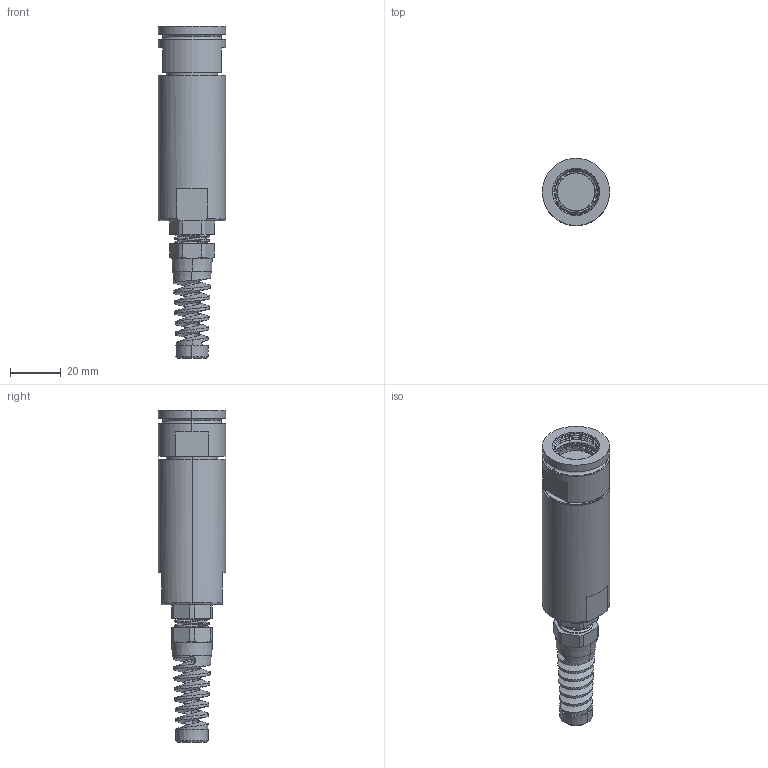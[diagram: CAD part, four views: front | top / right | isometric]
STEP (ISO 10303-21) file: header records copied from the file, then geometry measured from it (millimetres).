
FILE_DESCRIPTION (( 'STEP AP214' ), '1' );
FILE_NAME ('Q38SHELL-STX-13-XXXX-GB.STEP', '2025-09-09T20:41:31', ( '' ), ( '' ), 'SwSTEP 2.0', 'SolidWorks 2024', '' );
FILE_SCHEMA (( 'AUTOMOTIVE_DESIGN' ));
Length unit declared in the file: millimetre
Products named in the file (1): Q38SHELL-STX-13-XXXX-GB
Bounding box: 26.42 x 26.42 x 130.43 mm (x, y, z)
Volume: 44359.2 mm3; surface area: 13840.6 mm2
Topology: 2 solids, 2 shells, 248 faces, 789 edges, 559 vertices
Faces by surface type: plane 120, cylinder 70, cone 38, torus 13, bspline 7
Entity records: 12547 total; most frequent: CARTESIAN_POINT 6022, ORIENTED_EDGE 1578, DIRECTION 1155, EDGE_CURVE 789, VERTEX_POINT 559, AXIS2_PLACEMENT_3D 472, EDGE_LOOP 266, B_SPLINE_CURVE_WITH_KNOTS 255
